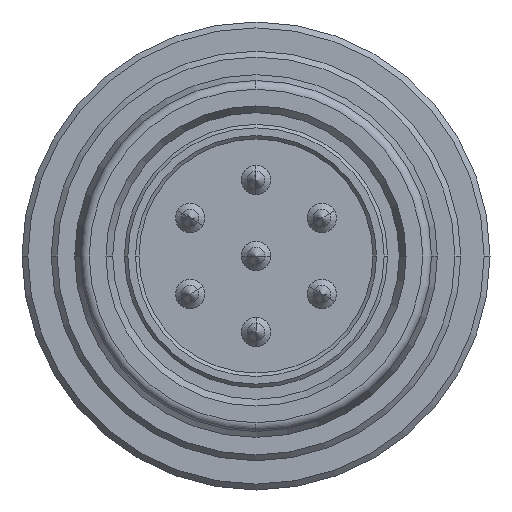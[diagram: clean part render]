
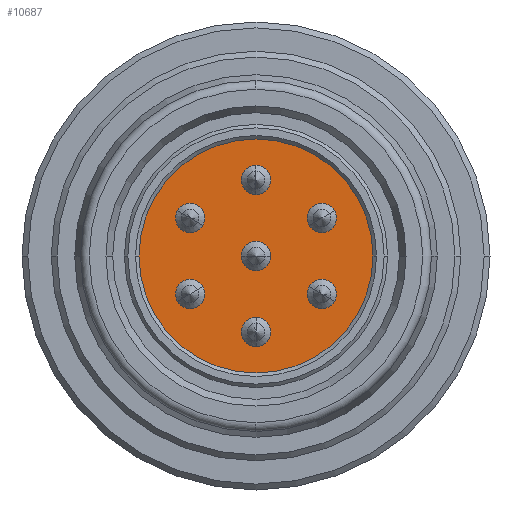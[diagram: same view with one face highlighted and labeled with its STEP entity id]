
A CAD part, left-side view. The second image highlights one B-rep face of the part: STEP entity #10687.
In plain terms, the highlighted planar face has unit normal (-1, 0, 0).
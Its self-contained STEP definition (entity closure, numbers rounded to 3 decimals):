
#3500=CARTESIAN_POINT('',(0.0,-10.0,0.0));
#3501=VERTEX_POINT('',#3500);
#3509=CARTESIAN_POINT('',(0.0,10.0,0.));
#3510=VERTEX_POINT('',#3509);
#3517=CARTESIAN_POINT('',(0.0,0.0,0.0));
#3518=DIRECTION('',(1.0,0.0,0.0));
#3519=DIRECTION('',(0.0,-1.0,0.0));
#3520=AXIS2_PLACEMENT_3D('',#3517,#3518,#3519);
#3521=CIRCLE('',#3520,10.0);
#3522=EDGE_CURVE('',#3510,#3501,#3521,.T.);
#3576=CARTESIAN_POINT('',(0.0,0.,-7.75));
#3577=VERTEX_POINT('',#3576);
#3593=CARTESIAN_POINT('',(0.0,0.,-5.25));
#3594=VERTEX_POINT('',#3593);
#3601=CARTESIAN_POINT('',(0.0,0.0,-6.5));
#3602=DIRECTION('',(1.0,0.0,0.0));
#3603=DIRECTION('',(0.0,0.0,-1.0));
#3604=AXIS2_PLACEMENT_3D('',#3601,#3602,#3603);
#3605=CIRCLE('',#3604,1.25);
#3606=EDGE_CURVE('',#3577,#3594,#3605,.T.);
#3669=CARTESIAN_POINT('',(0.0,0.,-1.25));
#3670=VERTEX_POINT('',#3669);
#3695=CARTESIAN_POINT('',(0.0,0.,1.25));
#3696=VERTEX_POINT('',#3695);
#3703=CARTESIAN_POINT('',(0.0,0.0,0.0));
#3704=DIRECTION('',(1.0,0.0,0.0));
#3705=DIRECTION('',(0.0,0.0,-1.0));
#3706=AXIS2_PLACEMENT_3D('',#3703,#3704,#3705);
#3707=CIRCLE('',#3706,1.25);
#3708=EDGE_CURVE('',#3670,#3696,#3707,.T.);
#3930=CARTESIAN_POINT('',(0.0,6.712,-3.875));
#3931=VERTEX_POINT('',#3930);
#3947=CARTESIAN_POINT('',(0.0,4.547,-2.625));
#3948=VERTEX_POINT('',#3947);
#3955=CARTESIAN_POINT('',(0.0,5.629,-3.25));
#3956=DIRECTION('',(1.0,0.0,0.0));
#3957=DIRECTION('',(0.0,0.866,-0.5));
#3958=AXIS2_PLACEMENT_3D('',#3955,#3956,#3957);
#3959=CIRCLE('',#3958,1.25);
#3960=EDGE_CURVE('',#3931,#3948,#3959,.T.);
#3972=CARTESIAN_POINT('',(0.0,6.712,3.875));
#3973=VERTEX_POINT('',#3972);
#3989=CARTESIAN_POINT('',(0.0,4.547,2.625));
#3990=VERTEX_POINT('',#3989);
#3997=CARTESIAN_POINT('',(0.0,5.629,3.25));
#3998=DIRECTION('',(1.,0.0,0.0));
#3999=DIRECTION('',(0.0,0.866,0.5));
#4000=AXIS2_PLACEMENT_3D('',#3997,#3998,#3999);
#4001=CIRCLE('',#4000,1.25);
#4002=EDGE_CURVE('',#3973,#3990,#4001,.T.);
#4014=CARTESIAN_POINT('',(0.0,0.,7.75));
#4015=VERTEX_POINT('',#4014);
#4031=CARTESIAN_POINT('',(0.0,0.,5.25));
#4032=VERTEX_POINT('',#4031);
#4039=CARTESIAN_POINT('',(0.0,0.,6.5));
#4040=DIRECTION('',(1.0,0.0,0.0));
#4041=DIRECTION('',(0.0,0.0,1.0));
#4042=AXIS2_PLACEMENT_3D('',#4039,#4040,#4041);
#4043=CIRCLE('',#4042,1.25);
#4044=EDGE_CURVE('',#4015,#4032,#4043,.T.);
#4056=CARTESIAN_POINT('',(0.0,-6.712,3.875));
#4057=VERTEX_POINT('',#4056);
#4073=CARTESIAN_POINT('',(0.0,-4.547,2.625));
#4074=VERTEX_POINT('',#4073);
#4081=CARTESIAN_POINT('',(0.0,-5.629,3.25));
#4082=DIRECTION('',(1.,0.0,0.0));
#4083=DIRECTION('',(0.0,-0.866,0.5));
#4084=AXIS2_PLACEMENT_3D('',#4081,#4082,#4083);
#4085=CIRCLE('',#4084,1.25);
#4086=EDGE_CURVE('',#4057,#4074,#4085,.T.);
#4098=CARTESIAN_POINT('',(0.0,-6.712,-3.875));
#4099=VERTEX_POINT('',#4098);
#4115=CARTESIAN_POINT('',(0.0,-4.547,-2.625));
#4116=VERTEX_POINT('',#4115);
#4123=CARTESIAN_POINT('',(0.0,-5.629,-3.25));
#4124=DIRECTION('',(1.0,0.0,0.0));
#4125=DIRECTION('',(0.0,-0.866,-0.5));
#4126=AXIS2_PLACEMENT_3D('',#4123,#4124,#4125);
#4127=CIRCLE('',#4126,1.25);
#4128=EDGE_CURVE('',#4099,#4116,#4127,.T.);
#8240=CARTESIAN_POINT('',(0.0,-5.629,-3.25));
#8241=DIRECTION('',(1.0,0.0,0.0));
#8242=DIRECTION('',(0.0,-0.866,-0.5));
#8243=AXIS2_PLACEMENT_3D('',#8240,#8241,#8242);
#8244=CIRCLE('',#8243,1.25);
#8245=EDGE_CURVE('',#4116,#4099,#8244,.T.);
#8258=CARTESIAN_POINT('',(0.0,-5.629,3.25));
#8259=DIRECTION('',(1.,0.0,0.0));
#8260=DIRECTION('',(0.0,-0.866,0.5));
#8261=AXIS2_PLACEMENT_3D('',#8258,#8259,#8260);
#8262=CIRCLE('',#8261,1.25);
#8263=EDGE_CURVE('',#4074,#4057,#8262,.T.);
#8276=CARTESIAN_POINT('',(0.0,0.,6.5));
#8277=DIRECTION('',(1.0,0.0,0.0));
#8278=DIRECTION('',(0.0,0.0,1.0));
#8279=AXIS2_PLACEMENT_3D('',#8276,#8277,#8278);
#8280=CIRCLE('',#8279,1.25);
#8281=EDGE_CURVE('',#4032,#4015,#8280,.T.);
#8294=CARTESIAN_POINT('',(0.0,5.629,3.25));
#8295=DIRECTION('',(1.,0.0,0.0));
#8296=DIRECTION('',(0.0,0.866,0.5));
#8297=AXIS2_PLACEMENT_3D('',#8294,#8295,#8296);
#8298=CIRCLE('',#8297,1.25);
#8299=EDGE_CURVE('',#3990,#3973,#8298,.T.);
#8312=CARTESIAN_POINT('',(0.0,5.629,-3.25));
#8313=DIRECTION('',(1.0,0.0,0.0));
#8314=DIRECTION('',(0.0,0.866,-0.5));
#8315=AXIS2_PLACEMENT_3D('',#8312,#8313,#8314);
#8316=CIRCLE('',#8315,1.25);
#8317=EDGE_CURVE('',#3948,#3931,#8316,.T.);
#8420=CARTESIAN_POINT('',(0.0,0.0,0.0));
#8421=DIRECTION('',(1.0,0.0,0.0));
#8422=DIRECTION('',(0.0,0.0,-1.0));
#8423=AXIS2_PLACEMENT_3D('',#8420,#8421,#8422);
#8424=CIRCLE('',#8423,1.25);
#8425=EDGE_CURVE('',#3696,#3670,#8424,.T.);
#8457=CARTESIAN_POINT('',(0.0,0.0,-6.5));
#8458=DIRECTION('',(1.0,0.0,0.0));
#8459=DIRECTION('',(0.0,0.0,-1.0));
#8460=AXIS2_PLACEMENT_3D('',#8457,#8458,#8459);
#8461=CIRCLE('',#8460,1.25);
#8462=EDGE_CURVE('',#3594,#3577,#8461,.T.);
#8493=CARTESIAN_POINT('',(0.0,0.0,0.0));
#8494=DIRECTION('',(1.0,0.0,0.0));
#8495=DIRECTION('',(0.0,-1.0,0.0));
#8496=AXIS2_PLACEMENT_3D('',#8493,#8494,#8495);
#8497=CIRCLE('',#8496,10.0);
#8498=EDGE_CURVE('',#3501,#3510,#8497,.T.);
#10650=CARTESIAN_POINT('',(0.0,-5.0,0.0));
#10651=DIRECTION('',(-1.0,0.0,0.0));
#10652=DIRECTION('',(0.0,0.0,1.0));
#10653=AXIS2_PLACEMENT_3D('',#10650,#10651,#10652);
#10654=PLANE('',#10653);
#10655=ORIENTED_EDGE('',*,*,#8498,.F.);
#10656=ORIENTED_EDGE('',*,*,#3522,.F.);
#10657=EDGE_LOOP('',(#10655,#10656));
#10658=FACE_OUTER_BOUND('',#10657,.T.);
#10659=ORIENTED_EDGE('',*,*,#8245,.T.);
#10660=ORIENTED_EDGE('',*,*,#4128,.T.);
#10661=EDGE_LOOP('',(#10659,#10660));
#10662=FACE_BOUND('',#10661,.T.);
#10663=ORIENTED_EDGE('',*,*,#8263,.T.);
#10664=ORIENTED_EDGE('',*,*,#4086,.T.);
#10665=EDGE_LOOP('',(#10663,#10664));
#10666=FACE_BOUND('',#10665,.T.);
#10667=ORIENTED_EDGE('',*,*,#8281,.T.);
#10668=ORIENTED_EDGE('',*,*,#4044,.T.);
#10669=EDGE_LOOP('',(#10667,#10668));
#10670=FACE_BOUND('',#10669,.T.);
#10671=ORIENTED_EDGE('',*,*,#8299,.T.);
#10672=ORIENTED_EDGE('',*,*,#4002,.T.);
#10673=EDGE_LOOP('',(#10671,#10672));
#10674=FACE_BOUND('',#10673,.T.);
#10675=ORIENTED_EDGE('',*,*,#8317,.T.);
#10676=ORIENTED_EDGE('',*,*,#3960,.T.);
#10677=EDGE_LOOP('',(#10675,#10676));
#10678=FACE_BOUND('',#10677,.T.);
#10679=ORIENTED_EDGE('',*,*,#8425,.T.);
#10680=ORIENTED_EDGE('',*,*,#3708,.T.);
#10681=EDGE_LOOP('',(#10679,#10680));
#10682=FACE_BOUND('',#10681,.T.);
#10683=ORIENTED_EDGE('',*,*,#8462,.T.);
#10684=ORIENTED_EDGE('',*,*,#3606,.T.);
#10685=EDGE_LOOP('',(#10683,#10684));
#10686=FACE_BOUND('',#10685,.T.);
#10687=ADVANCED_FACE('',(#10658,#10662,#10666,#10670,#10674,#10678,#10682,#10686),#10654,.T.);
